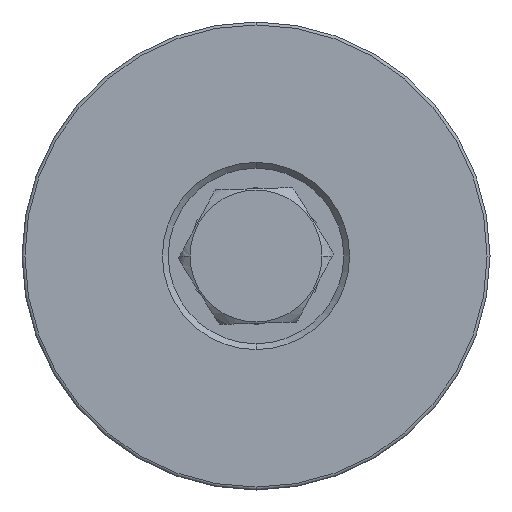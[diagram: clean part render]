
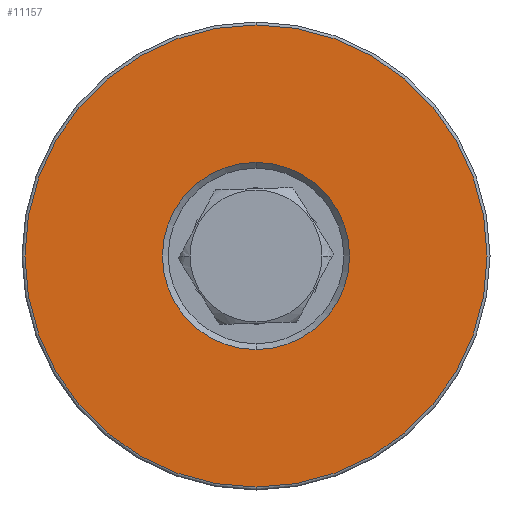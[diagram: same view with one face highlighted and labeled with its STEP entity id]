
A CAD part, front view. The second image highlights one B-rep face of the part: STEP entity #11157.
In plain terms, the highlighted planar face has unit normal (0, -1, 0).
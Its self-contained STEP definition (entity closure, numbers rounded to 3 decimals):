
#341 = FACE_BOUND ( 'NONE', #9621, .T. ) ;
#1178 = DIRECTION ( 'NONE',  ( 0., 1., 0. ) ) ;
#1334 = EDGE_CURVE ( 'NONE', #4551, #2758, #1355, .T. ) ;
#1355 = CIRCLE ( 'NONE', #1712, 39.5 ) ;
#1712 = AXIS2_PLACEMENT_3D ( 'NONE', #10577, #9350, #4990 ) ;
#1976 = VERTEX_POINT ( 'NONE', #11912 ) ;
#2152 = PLANE ( 'NONE',  #7982 ) ;
#2311 = EDGE_CURVE ( 'NONE', #8124, #1976, #5141, .T. ) ;
#2331 = CARTESIAN_POINT ( 'NONE',  ( 0., -30., 0. ) ) ;
#2758 = VERTEX_POINT ( 'NONE', #10835 ) ;
#3402 = CIRCLE ( 'NONE', #7674, 39.5 ) ;
#3565 = DIRECTION ( 'NONE',  ( 0., 0., 1. ) ) ;
#3626 = CARTESIAN_POINT ( 'NONE',  ( 0., -30., 39.5 ) ) ;
#3641 = AXIS2_PLACEMENT_3D ( 'NONE', #11342, #1178, #9181 ) ;
#3921 = AXIS2_PLACEMENT_3D ( 'NONE', #7369, #5842, #4603 ) ;
#3976 = ORIENTED_EDGE ( 'NONE', *, *, #2311, .T. ) ;
#4449 = EDGE_LOOP ( 'NONE', ( #5127, #4488 ) ) ;
#4488 = ORIENTED_EDGE ( 'NONE', *, *, #8082, .T. ) ;
#4551 = VERTEX_POINT ( 'NONE', #3626 ) ;
#4603 = DIRECTION ( 'NONE',  ( 0., 0., 1. ) ) ;
#4990 = DIRECTION ( 'NONE',  ( 0., 0., 1. ) ) ;
#5127 = ORIENTED_EDGE ( 'NONE', *, *, #1334, .T. ) ;
#5141 = CIRCLE ( 'NONE', #3921, 16. ) ;
#5842 = DIRECTION ( 'NONE',  ( 0., 1., 0. ) ) ;
#6207 = DIRECTION ( 'NONE',  ( 0., 1., 0. ) ) ;
#6743 = EDGE_CURVE ( 'NONE', #1976, #8124, #7510, .T. ) ;
#7369 = CARTESIAN_POINT ( 'NONE',  ( 0., -30., 0. ) ) ;
#7427 = DIRECTION ( 'NONE',  ( 0., 0., 1. ) ) ;
#7510 = CIRCLE ( 'NONE', #3641, 16. ) ;
#7674 = AXIS2_PLACEMENT_3D ( 'NONE', #2331, #10651, #3565 ) ;
#7982 = AXIS2_PLACEMENT_3D ( 'NONE', #11392, #6207, #7427 ) ;
#8082 = EDGE_CURVE ( 'NONE', #2758, #4551, #3402, .T. ) ;
#8124 = VERTEX_POINT ( 'NONE', #8198 ) ;
#8198 = CARTESIAN_POINT ( 'NONE',  ( 0., -30., 16. ) ) ;
#9181 = DIRECTION ( 'NONE',  ( 0., 0., 1. ) ) ;
#9350 = DIRECTION ( 'NONE',  ( 0., -1., 0. ) ) ;
#9363 = ORIENTED_EDGE ( 'NONE', *, *, #6743, .T. ) ;
#9621 = EDGE_LOOP ( 'NONE', ( #9363, #3976 ) ) ;
#10151 = FACE_OUTER_BOUND ( 'NONE', #4449, .T. ) ;
#10577 = CARTESIAN_POINT ( 'NONE',  ( 0., -30., 0. ) ) ;
#10651 = DIRECTION ( 'NONE',  ( 0., -1., 0. ) ) ;
#10835 = CARTESIAN_POINT ( 'NONE',  ( 0., -30., -39.5 ) ) ;
#11157 = ADVANCED_FACE ( 'NONE', ( #341, #10151 ), #2152, .F. ) ;
#11342 = CARTESIAN_POINT ( 'NONE',  ( 0., -30., 0. ) ) ;
#11392 = CARTESIAN_POINT ( 'NONE',  ( 0., -30., 0. ) ) ;
#11912 = CARTESIAN_POINT ( 'NONE',  ( 0., -30., -16. ) ) ;
